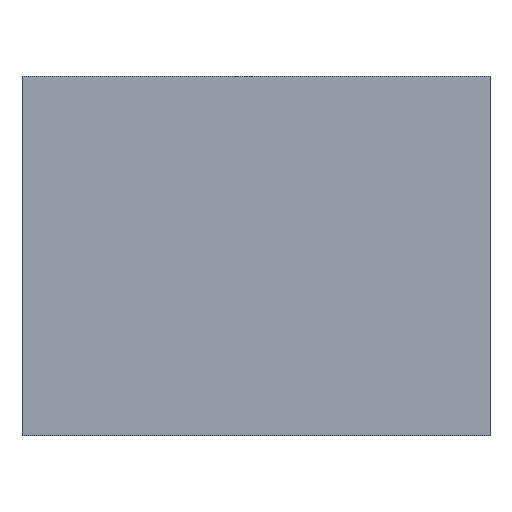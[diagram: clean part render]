
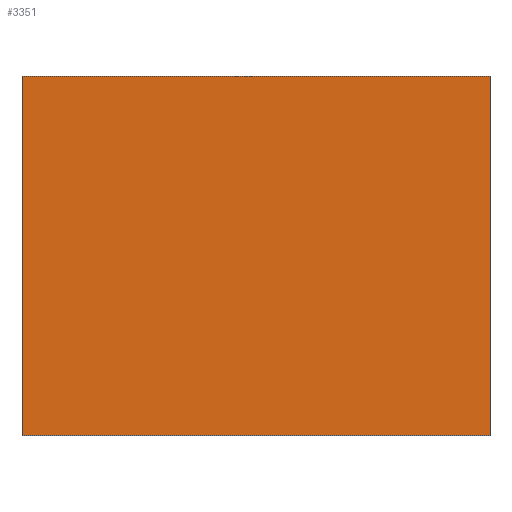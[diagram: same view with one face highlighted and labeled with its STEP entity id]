
A CAD part, top view. The second image highlights one B-rep face of the part: STEP entity #3351.
In plain terms, the highlighted planar face has unit normal (0, 0, 1).
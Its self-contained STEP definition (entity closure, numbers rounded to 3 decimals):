
#3215=CARTESIAN_POINT('Vertex',(107.5,82.5,35.)) ;
#3229=CARTESIAN_POINT('Vertex',(-107.5,82.5,35.)) ;
#3232=CARTESIAN_POINT('Line Origine',(0.,82.5,35.)) ;
#3260=CARTESIAN_POINT('Vertex',(-107.5,-82.5,35.)) ;
#3263=CARTESIAN_POINT('Line Origine',(-107.5,0.,35.)) ;
#3291=CARTESIAN_POINT('Vertex',(107.5,-82.5,35.)) ;
#3294=CARTESIAN_POINT('Line Origine',(0.,-82.5,35.)) ;
#3316=CARTESIAN_POINT('Line Origine',(107.5,0.,35.)) ;
#3340=CARTESIAN_POINT('Axis2P3D Location',(0.,0.,35.)) ;
#3233=DIRECTION('Vector Direction',(1.,0.,0.)) ;
#3264=DIRECTION('Vector Direction',(0.,1.,0.)) ;
#3295=DIRECTION('Vector Direction',(-1.,0.,0.)) ;
#3317=DIRECTION('Vector Direction',(0.,-1.,0.)) ;
#3341=DIRECTION('Axis2P3D Direction',(0.,0.,1.)) ;
#3342=DIRECTION('Axis2P3D XDirection',(1.,0.,0.)) ;
#3343=AXIS2_PLACEMENT_3D('Plane Axis2P3D',#3340,#3341,#3342) ;
#3346=ORIENTED_EDGE('',*,*,#3236,.T.) ;
#3347=ORIENTED_EDGE('',*,*,#3267,.T.) ;
#3348=ORIENTED_EDGE('',*,*,#3298,.T.) ;
#3349=ORIENTED_EDGE('',*,*,#3320,.T.) ;
#3234=VECTOR('Line Direction',#3233,1.) ;
#3265=VECTOR('Line Direction',#3264,1.) ;
#3296=VECTOR('Line Direction',#3295,1.) ;
#3318=VECTOR('Line Direction',#3317,1.) ;
#3351=ADVANCED_FACE('cavity',(#3350),#3344,.T.) ;
#3236=EDGE_CURVE('',#3216,#3230,#3235,.F.) ;
#3267=EDGE_CURVE('',#3230,#3261,#3266,.F.) ;
#3298=EDGE_CURVE('',#3261,#3292,#3297,.F.) ;
#3320=EDGE_CURVE('',#3292,#3216,#3319,.F.) ;
#3345=EDGE_LOOP('',(#3346,#3347,#3348,#3349)) ;
#3350=FACE_OUTER_BOUND('',#3345,.T.) ;
#3235=LINE('Line',#3232,#3234) ;
#3266=LINE('Line',#3263,#3265) ;
#3297=LINE('Line',#3294,#3296) ;
#3319=LINE('Line',#3316,#3318) ;
#3344=PLANE('Plane',#3343) ;
#3216=VERTEX_POINT('',#3215) ;
#3230=VERTEX_POINT('',#3229) ;
#3261=VERTEX_POINT('',#3260) ;
#3292=VERTEX_POINT('',#3291) ;
